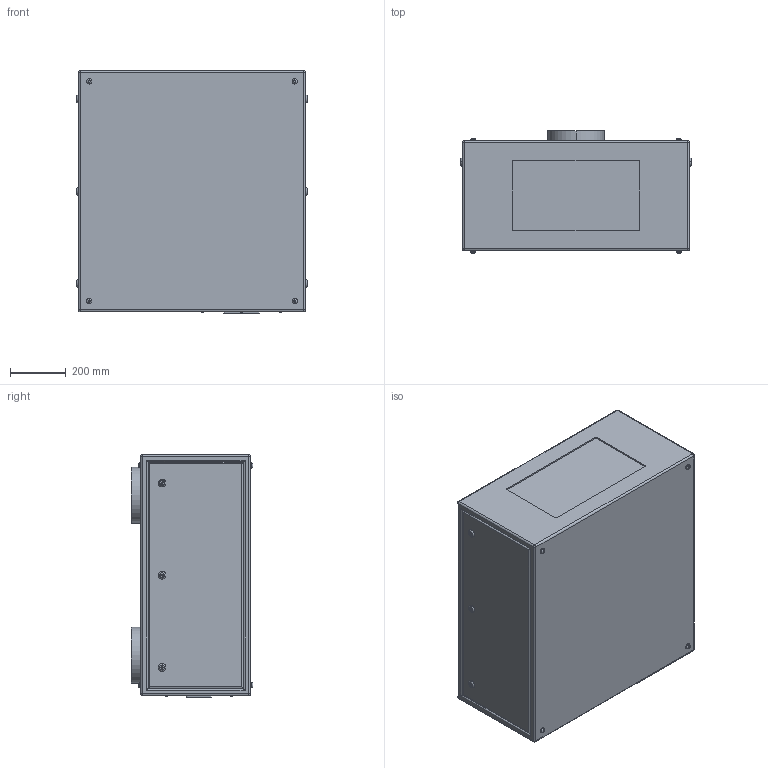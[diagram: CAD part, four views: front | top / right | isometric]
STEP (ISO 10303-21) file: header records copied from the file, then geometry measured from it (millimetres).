
FILE_DESCRIPTION (( 'STEP AP214' ), '1' );
FILE_NAME ('Tacit 56.100.L R07.STEP', '2022-09-11T22:45:09', ( '' ), ( '' ), 'SwSTEP 2.0', 'SolidWorks 2020', '' );
FILE_SCHEMA (( 'AUTOMOTIVE_DESIGN' ));
Length unit declared in the file: inch
Products named in the file (1): Tacit 56.100.L R07
Bounding box: 825.5 x 436.75 x 868.68 mm (x, y, z)
Volume: 275512450.2 mm3; surface area: 3018485.8 mm2
Topology: 1 solids, 5 shells, 383 faces, 852 edges, 536 vertices
Faces by surface type: plane 199, cylinder 136, torus 40, sphere 8
Entity records: 13917 total; most frequent: DIRECTION 1916, CARTESIAN_POINT 1812, ORIENTED_EDGE 1688, EDGE_CURVE 844, AXIS2_PLACEMENT_3D 704, VERTEX_POINT 536, VECTOR 508, LINE 508
